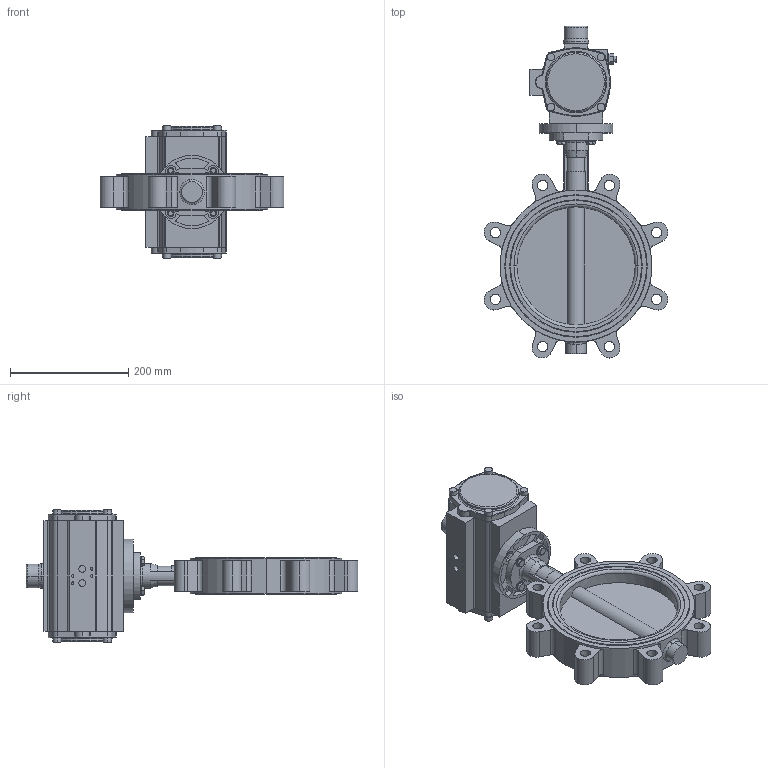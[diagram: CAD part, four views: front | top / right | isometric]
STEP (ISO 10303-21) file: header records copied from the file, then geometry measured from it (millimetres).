
FILE_DESCRIPTION (( 'STEP AP214' ), '1' );
FILE_NAME ('67713.step', '2020-10-26T07:27:59', ( '' ), ( '' ), 'SwSTEP 2.0', 'SolidWorks 2019', '' );
FILE_SCHEMA (( 'AUTOMOTIVE_DESIGN' ));
Length unit declared in the file: millimetre
Products named in the file (6): 67713; U-Scheibe DIN 125 A_M8; TL20-0200_M01; DA0200-V17_01; 6kt-Schr DIN 933_M8x45; Flanschadapter F07-F10
Assembly tree (11 placements, depth 2):
  67713
    TL20-0200_M01
    Flanschadapter F07-F10
    DA0200-V17_01
    6kt-Schr DIN 933_M8x45  x4
    U-Scheibe DIN 125 A_M8  x4
Bounding box: 311.15 x 561.57 x 225 mm (x, y, z)
Volume: 5481530.9 mm3; surface area: 485397.8 mm2
Topology: 13 solids, 13 shells, 752 faces, 1827 edges, 1169 vertices
Faces by surface type: plane 329, cylinder 311, cone 52, torus 46, bspline 14
Entity records: 23627 total; most frequent: CARTESIAN_POINT 5028, DIRECTION 3622, ORIENTED_EDGE 3246, EDGE_CURVE 1623, AXIS2_PLACEMENT_3D 1406, VERTEX_POINT 1049, VECTOR 810, LINE 810
